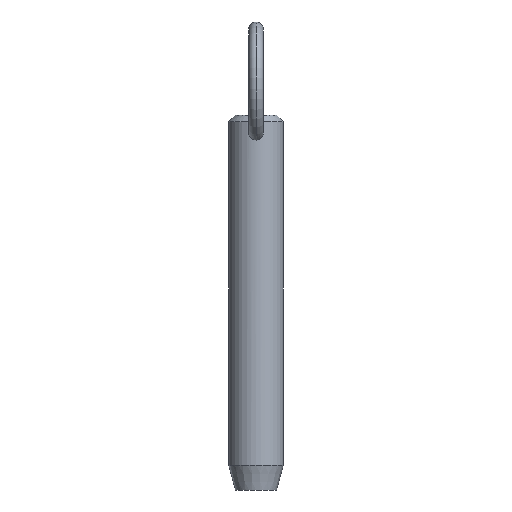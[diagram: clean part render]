
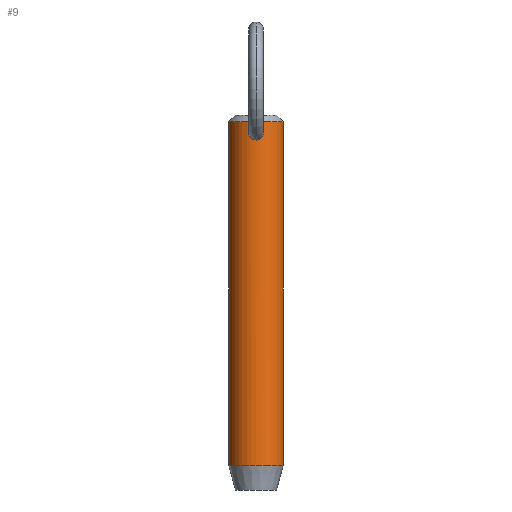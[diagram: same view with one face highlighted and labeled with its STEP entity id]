
A CAD part, front view. The second image highlights one B-rep face of the part: STEP entity #9.
In plain terms, the highlighted cylindrical face has radius 5.55 mm (diameter 11.1 mm), a partial arc.
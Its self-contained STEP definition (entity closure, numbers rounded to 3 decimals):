
#3 = ORIENTED_EDGE ( 'NONE', *, *, #222, .T. ) ;
#8 = CARTESIAN_POINT ( 'NONE',  ( -1.477, -5.35, 58.442 ) ) ;
#9 = ADVANCED_FACE ( 'NONE', ( #41, #455 ), #378, .T. ) ;
#11 = CARTESIAN_POINT ( 'NONE',  ( -0.976, -5.464, 57.531 ) ) ;
#17 = CARTESIAN_POINT ( 'NONE',  ( 0.523, -5.526, 57.266 ) ) ;
#19 = ORIENTED_EDGE ( 'NONE', *, *, #70, .T. ) ;
#22 = CARTESIAN_POINT ( 'NONE',  ( 0.106, -5.55, 60.645 ) ) ;
#25 = CARTESIAN_POINT ( 'NONE',  ( 0.421, -5.535, 57.232 ) ) ;
#26 = DIRECTION ( 'NONE',  ( 0., 0., 1. ) ) ;
#32 = CARTESIAN_POINT ( 'NONE',  ( 0., 0., 60.95 ) ) ;
#37 = DIRECTION ( 'NONE',  ( 0., 0., -1. ) ) ;
#41 = FACE_OUTER_BOUND ( 'NONE', #67, .T. ) ;
#65 = CARTESIAN_POINT ( 'NONE',  ( 1.503, -5.343, 58.759 ) ) ;
#67 = EDGE_LOOP ( 'NONE', ( #267, #246, #249, #19 ) ) ;
#68 = CARTESIAN_POINT ( 'NONE',  ( 1.295, -5.397, 59.682 ) ) ;
#70 = EDGE_CURVE ( 'NONE', #96, #124, #236, .T. ) ;
#78 = DIRECTION ( 'NONE',  ( 0., 0., -1. ) ) ;
#92 = VERTEX_POINT ( 'NONE', #519 ) ;
#96 = VERTEX_POINT ( 'NONE', #333 ) ;
#98 = EDGE_CURVE ( 'NONE', #92, #156, #271, .T. ) ;
#109 = CARTESIAN_POINT ( 'NONE',  ( 0.977, -5.464, 57.532 ) ) ;
#110 = DIRECTION ( 'NONE',  ( -1., 0., 0. ) ) ;
#112 = CARTESIAN_POINT ( 'NONE',  ( -0.416, -5.535, 60.567 ) ) ;
#115 = VECTOR ( 'NONE', #37, 1000. ) ;
#116 = CARTESIAN_POINT ( 'NONE',  ( 1.055, -5.449, 57.605 ) ) ;
#120 = B_SPLINE_CURVE_WITH_KNOTS ( 'NONE', 3,
 ( #508, #22, #512, #435, #438, #312, #470, #477, #68, #325, #318, #65, #328, #365, #278, #150, #400, #116, #109, #430, #201, #17, #25, #403, #157, #161 ),
 .UNSPECIFIED., .F., .F.,
 ( 4, 2, 2, 2, 2, 2, 2, 2, 2, 2, 2, 2, 4 ),
 ( 0.005, 0.005, 0.005, 0.006, 0.006, 0.007, 0.007, 0.008, 0.008, 0.009, 0.009, 0.009, 0.01 ),
 .UNSPECIFIED. ) ;
#124 = VERTEX_POINT ( 'NONE', #292 ) ;
#125 = CARTESIAN_POINT ( 'NONE',  ( -0.212, -5.547, 57.188 ) ) ;
#133 = CARTESIAN_POINT ( 'NONE',  ( -1.503, -5.343, 58.759 ) ) ;
#137 = CARTESIAN_POINT ( 'NONE',  ( -1.294, -5.398, 59.686 ) ) ;
#146 = DIRECTION ( 'NONE',  ( 0., 0., -1. ) ) ;
#150 = CARTESIAN_POINT ( 'NONE',  ( 1.363, -5.38, 58.034 ) ) ;
#156 = VERTEX_POINT ( 'NONE', #471 ) ;
#157 = CARTESIAN_POINT ( 'NONE',  ( 0.107, -5.55, 57.177 ) ) ;
#159 = CARTESIAN_POINT ( 'NONE',  ( 0., -5.55, 60.645 ) ) ;
#161 = CARTESIAN_POINT ( 'NONE',  ( 0., -5.55, 57.177 ) ) ;
#165 = CARTESIAN_POINT ( 'NONE',  ( 0., 0., -9.2 ) ) ;
#190 = CARTESIAN_POINT ( 'NONE',  ( 0., -5.55, 60.645 ) ) ;
#191 = VERTEX_POINT ( 'NONE', #159 ) ;
#201 = CARTESIAN_POINT ( 'NONE',  ( 0.716, -5.504, 57.352 ) ) ;
#205 = CARTESIAN_POINT ( 'NONE',  ( -0.513, -5.527, 60.523 ) ) ;
#215 = B_SPLINE_CURVE_WITH_KNOTS ( 'NONE', 3,
 ( #253, #256, #125, #485, #490, #257, #526, #11, #456, #306, #264, #228, #8, #307, #133, #420, #458, #137, #498, #349, #464, #205, #112, #390, #276, #190 ),
 .UNSPECIFIED., .F., .F.,
 ( 4, 2, 2, 2, 2, 2, 2, 2, 2, 2, 2, 2, 4 ),
 ( 0.01, 0.01, 0.01, 0.011, 0.011, 0.012, 0.012, 0.012, 0.013, 0.013, 0.014, 0.014, 0.015 ),
 .UNSPECIFIED. ) ;
#222 = EDGE_CURVE ( 'NONE', #347, #191, #215, .T. ) ;
#228 = CARTESIAN_POINT ( 'NONE',  ( -1.455, -5.356, 58.336 ) ) ;
#229 = CARTESIAN_POINT ( 'NONE',  ( 0., 0., 55.9 ) ) ;
#236 = CIRCLE ( 'NONE', #348, 5.55 ) ;
#239 = EDGE_LOOP ( 'NONE', ( #356, #3 ) ) ;
#246 = ORIENTED_EDGE ( 'NONE', *, *, #98, .T. ) ;
#249 = ORIENTED_EDGE ( 'NONE', *, *, #453, .T. ) ;
#253 = CARTESIAN_POINT ( 'NONE',  ( 0., -5.55, 57.177 ) ) ;
#256 = CARTESIAN_POINT ( 'NONE',  ( -0.107, -5.55, 57.177 ) ) ;
#257 = CARTESIAN_POINT ( 'NONE',  ( -0.716, -5.504, 57.352 ) ) ;
#264 = CARTESIAN_POINT ( 'NONE',  ( -1.362, -5.381, 58.032 ) ) ;
#265 = LINE ( 'NONE', #486, #115 ) ;
#267 = ORIENTED_EDGE ( 'NONE', *, *, #414, .F. ) ;
#271 = CIRCLE ( 'NONE', #422, 5.55 ) ;
#276 = CARTESIAN_POINT ( 'NONE',  ( -0.106, -5.55, 60.645 ) ) ;
#278 = CARTESIAN_POINT ( 'NONE',  ( 1.455, -5.356, 58.338 ) ) ;
#292 = CARTESIAN_POINT ( 'NONE',  ( 5.55, 0., -9.2 ) ) ;
#306 = CARTESIAN_POINT ( 'NONE',  ( -1.26, -5.407, 57.842 ) ) ;
#307 = CARTESIAN_POINT ( 'NONE',  ( -1.5, -5.343, 58.653 ) ) ;
#312 = CARTESIAN_POINT ( 'NONE',  ( 0.786, -5.497, 60.357 ) ) ;
#316 = EDGE_CURVE ( 'NONE', #191, #347, #120, .T. ) ;
#318 = CARTESIAN_POINT ( 'NONE',  ( 1.486, -5.347, 59.074 ) ) ;
#325 = CARTESIAN_POINT ( 'NONE',  ( 1.44, -5.36, 59.286 ) ) ;
#328 = CARTESIAN_POINT ( 'NONE',  ( 1.5, -5.343, 58.654 ) ) ;
#329 = DIRECTION ( 'NONE',  ( 1., 0., 0. ) ) ;
#333 = CARTESIAN_POINT ( 'NONE',  ( -5.55, 0., -9.2 ) ) ;
#347 = VERTEX_POINT ( 'NONE', #360 ) ;
#348 = AXIS2_PLACEMENT_3D ( 'NONE', #165, #26, #433 ) ;
#349 = CARTESIAN_POINT ( 'NONE',  ( -0.939, -5.472, 60.21 ) ) ;
#356 = ORIENTED_EDGE ( 'NONE', *, *, #316, .T. ) ;
#360 = CARTESIAN_POINT ( 'NONE',  ( 0., -5.55, 57.177 ) ) ;
#364 = CARTESIAN_POINT ( 'NONE',  ( -5.55, 0., 55.9 ) ) ;
#365 = CARTESIAN_POINT ( 'NONE',  ( 1.477, -5.35, 58.444 ) ) ;
#378 = CYLINDRICAL_SURFACE ( 'NONE', #520, 5.55 ) ;
#390 = CARTESIAN_POINT ( 'NONE',  ( -0.211, -5.547, 60.629 ) ) ;
#400 = CARTESIAN_POINT ( 'NONE',  ( 1.26, -5.407, 57.843 ) ) ;
#403 = CARTESIAN_POINT ( 'NONE',  ( 0.213, -5.547, 57.188 ) ) ;
#414 = EDGE_CURVE ( 'NONE', #92, #124, #265, .T. ) ;
#420 = CARTESIAN_POINT ( 'NONE',  ( -1.485, -5.348, 59.079 ) ) ;
#422 = AXIS2_PLACEMENT_3D ( 'NONE', #32, #78, #329 ) ;
#430 = CARTESIAN_POINT ( 'NONE',  ( 0.807, -5.492, 57.406 ) ) ;
#433 = DIRECTION ( 'NONE',  ( -1., 0., 0. ) ) ;
#435 = CARTESIAN_POINT ( 'NONE',  ( 0.417, -5.535, 60.567 ) ) ;
#438 = CARTESIAN_POINT ( 'NONE',  ( 0.515, -5.527, 60.522 ) ) ;
#446 = VECTOR ( 'NONE', #480, 1000. ) ;
#453 = EDGE_CURVE ( 'NONE', #156, #96, #473, .T. ) ;
#455 = FACE_BOUND ( 'NONE', #239, .T. ) ;
#456 = CARTESIAN_POINT ( 'NONE',  ( -1.054, -5.449, 57.604 ) ) ;
#458 = CARTESIAN_POINT ( 'NONE',  ( -1.44, -5.36, 59.287 ) ) ;
#464 = CARTESIAN_POINT ( 'NONE',  ( -0.785, -5.497, 60.358 ) ) ;
#470 = CARTESIAN_POINT ( 'NONE',  ( 0.941, -5.471, 60.207 ) ) ;
#471 = CARTESIAN_POINT ( 'NONE',  ( -5.55, 0., 60.95 ) ) ;
#473 = LINE ( 'NONE', #364, #446 ) ;
#477 = CARTESIAN_POINT ( 'NONE',  ( 1.194, -5.422, 59.871 ) ) ;
#480 = DIRECTION ( 'NONE',  ( 0., 0., -1. ) ) ;
#485 = CARTESIAN_POINT ( 'NONE',  ( -0.42, -5.535, 57.232 ) ) ;
#486 = CARTESIAN_POINT ( 'NONE',  ( 5.55, 0., 55.9 ) ) ;
#490 = CARTESIAN_POINT ( 'NONE',  ( -0.523, -5.526, 57.266 ) ) ;
#498 = CARTESIAN_POINT ( 'NONE',  ( -1.195, -5.421, 59.871 ) ) ;
#508 = CARTESIAN_POINT ( 'NONE',  ( 0., -5.55, 60.645 ) ) ;
#512 = CARTESIAN_POINT ( 'NONE',  ( 0.214, -5.547, 60.628 ) ) ;
#519 = CARTESIAN_POINT ( 'NONE',  ( 5.55, 0., 60.95 ) ) ;
#520 = AXIS2_PLACEMENT_3D ( 'NONE', #229, #146, #110 ) ;
#526 = CARTESIAN_POINT ( 'NONE',  ( -0.807, -5.492, 57.405 ) ) ;
